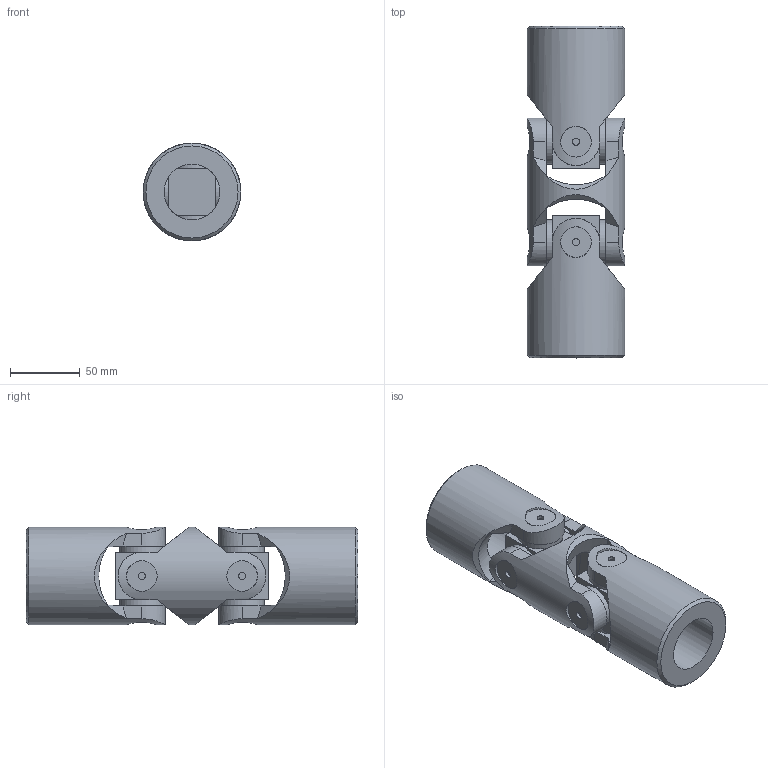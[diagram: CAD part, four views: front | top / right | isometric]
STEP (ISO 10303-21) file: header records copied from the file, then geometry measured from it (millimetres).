
FILE_DESCRIPTION(/* description */ (''),/* implementation_level */ '2;1');
FILE_NAME(/* name */ '\\SRV2016\Societa\Stefano\Disegni 3D\00Catalogo 3D\02Doppi GD-GBD\SGBD4000.stp',/* time_stamp */ '2021-11-23T15:59:24+01:00',/* author */ ('acquisti'),/* organization */ (''),/* preprocessor_version */ 'ST-DEVELOPER v15.6',/* originating_system */ 'Autodesk Inventor 2015',/* authorisation */ '');
FILE_SCHEMA (('AUTOMOTIVE_DESIGN { 1 0 10303 214 3 1 1 }'));
Length unit declared in the file: millimetre
Products named in the file (4): 7G MOD; 7G SFE; 8GB MOS; Ø70_8GBD-00_SGBD4000
Assembly tree (5 placements, depth 2):
  Ø70_8GBD-00_SGBD4000
    7G MOD
    7G SFE  x2
    8GB MOS  x2
Bounding box: 70 x 238 x 70 mm (x, y, z)
Volume: 572093.8 mm3; surface area: 106171.2 mm2
Topology: 5 solids, 5 shells, 130 faces, 312 edges, 212 vertices
Faces by surface type: plane 70, cylinder 38, cone 18, torus 4
Full cylindrical faces by diameter (mm): 5 x8, 22 x8, 32 x8, 40 x3, 70 x3
Entity records: 3288 total; most frequent: CARTESIAN_POINT 1283, ORIENTED_EDGE 388, DIRECTION 374, EDGE_CURVE 194, AXIS2_PLACEMENT_3D 163, VERTEX_POINT 148, EDGE_LOOP 130, FACE_OUTER_BOUND 89
